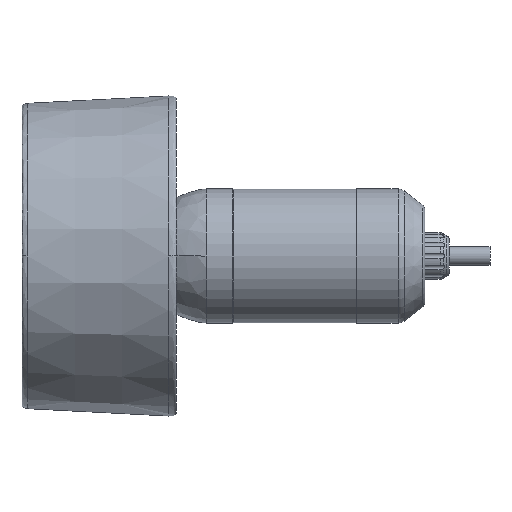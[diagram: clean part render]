
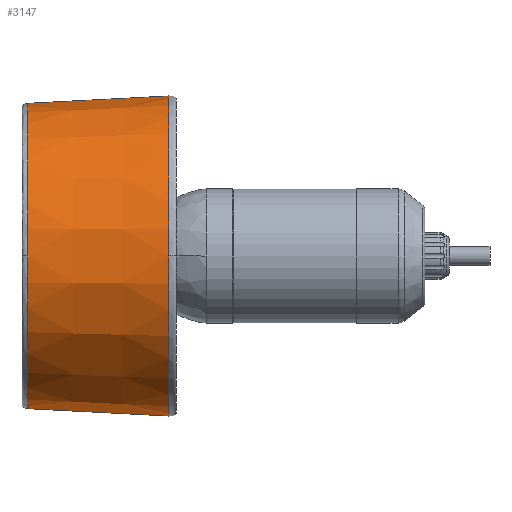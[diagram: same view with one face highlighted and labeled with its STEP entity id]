
A CAD part, front view. The second image highlights one B-rep face of the part: STEP entity #3147.
In plain terms, the highlighted conical face has half-angle 2.994 degrees and reference radius 65.108 mm.
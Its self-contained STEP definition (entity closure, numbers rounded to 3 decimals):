
#101 = AXIS2_PLACEMENT_3D ( 'NONE', #1865, #3343, #4468 ) ;
#211 = ORIENTED_EDGE ( 'NONE', *, *, #3208, .F. ) ;
#332 = CARTESIAN_POINT ( 'NONE',  ( -75.641, -62.108, 0. ) ) ;
#342 = EDGE_CURVE ( 'NONE', #1140, #2924, #1118, .T. ) ;
#347 = DIRECTION ( 'NONE',  ( 1., 0., 0. ) ) ;
#362 = DIRECTION ( 'NONE',  ( 0., 0., -1. ) ) ;
#363 = CARTESIAN_POINT ( 'NONE',  ( -18.282, 0., 0. ) ) ;
#367 = DIRECTION ( 'NONE',  ( 0., 0., -1. ) ) ;
#653 = DIRECTION ( 'NONE',  ( 0.999, 0., -0.052 ) ) ;
#689 = CARTESIAN_POINT ( 'NONE',  ( -75.641, 0., 0. ) ) ;
#710 = LINE ( 'NONE', #4080, #1025 ) ;
#911 = EDGE_CURVE ( 'NONE', #2924, #3658, #4724, .T. ) ;
#1025 = VECTOR ( 'NONE', #2209, 1000. ) ;
#1101 = DIRECTION ( 'NONE',  ( 0., 0., -1. ) ) ;
#1118 = CIRCLE ( 'NONE', #101, 62.108 ) ;
#1140 = VERTEX_POINT ( 'NONE', #332 ) ;
#1208 = ORIENTED_EDGE ( 'NONE', *, *, #4819, .F. ) ;
#1246 = AXIS2_PLACEMENT_3D ( 'NONE', #4486, #1424, #362 ) ;
#1424 = DIRECTION ( 'NONE',  ( 1., 0., 0. ) ) ;
#1449 = CARTESIAN_POINT ( 'NONE',  ( -18.282, 0., 0. ) ) ;
#1541 = VERTEX_POINT ( 'NONE', #2534 ) ;
#1732 = CONICAL_SURFACE ( 'NONE', #2119, 65.108, 0.052 ) ;
#1843 = FACE_OUTER_BOUND ( 'NONE', #2549, .T. ) ;
#1844 = DIRECTION ( 'NONE',  ( 0., 0., -1. ) ) ;
#1865 = CARTESIAN_POINT ( 'NONE',  ( -75.641, 0., 0. ) ) ;
#1953 = CIRCLE ( 'NONE', #4364, 62.108 ) ;
#1997 = EDGE_CURVE ( 'NONE', #1541, #1140, #1953, .T. ) ;
#2050 = VERTEX_POINT ( 'NONE', #4057 ) ;
#2119 = AXIS2_PLACEMENT_3D ( 'NONE', #363, #2951, #1101 ) ;
#2208 = CIRCLE ( 'NONE', #3205, 65.108 ) ;
#2209 = DIRECTION ( 'NONE',  ( 0.999, 0., 0.052 ) ) ;
#2256 = EDGE_CURVE ( 'NONE', #3901, #3658, #3678, .T. ) ;
#2534 = CARTESIAN_POINT ( 'NONE',  ( -75.641, 0., 62.108 ) ) ;
#2549 = EDGE_LOOP ( 'NONE', ( #211, #3951, #4391, #4584, #3569, #1208 ) ) ;
#2847 = CARTESIAN_POINT ( 'NONE',  ( -18.282, 0., -65.108 ) ) ;
#2924 = VERTEX_POINT ( 'NONE', #3531 ) ;
#2951 = DIRECTION ( 'NONE',  ( 1., 0., 0. ) ) ;
#2988 = VECTOR ( 'NONE', #653, 1000. ) ;
#3147 = ADVANCED_FACE ( 'NONE', ( #1843 ), #1732, .T. ) ;
#3205 = AXIS2_PLACEMENT_3D ( 'NONE', #1449, #4421, #1844 ) ;
#3208 = EDGE_CURVE ( 'NONE', #1541, #2050, #710, .T. ) ;
#3343 = DIRECTION ( 'NONE',  ( 1., 0., 0. ) ) ;
#3531 = CARTESIAN_POINT ( 'NONE',  ( -75.641, 0., -62.108 ) ) ;
#3569 = ORIENTED_EDGE ( 'NONE', *, *, #2256, .F. ) ;
#3658 = VERTEX_POINT ( 'NONE', #4507 ) ;
#3678 = CIRCLE ( 'NONE', #1246, 65.108 ) ;
#3901 = VERTEX_POINT ( 'NONE', #4388 ) ;
#3951 = ORIENTED_EDGE ( 'NONE', *, *, #1997, .T. ) ;
#4057 = CARTESIAN_POINT ( 'NONE',  ( -18.282, 0., 65.108 ) ) ;
#4080 = CARTESIAN_POINT ( 'NONE',  ( -18.282, 0., 65.108 ) ) ;
#4364 = AXIS2_PLACEMENT_3D ( 'NONE', #689, #347, #367 ) ;
#4388 = CARTESIAN_POINT ( 'NONE',  ( -18.282, -65.108, 0. ) ) ;
#4391 = ORIENTED_EDGE ( 'NONE', *, *, #342, .T. ) ;
#4421 = DIRECTION ( 'NONE',  ( 1., 0., 0. ) ) ;
#4468 = DIRECTION ( 'NONE',  ( 0., 0., -1. ) ) ;
#4486 = CARTESIAN_POINT ( 'NONE',  ( -18.282, 0., 0. ) ) ;
#4507 = CARTESIAN_POINT ( 'NONE',  ( -18.282, 0., -65.108 ) ) ;
#4584 = ORIENTED_EDGE ( 'NONE', *, *, #911, .T. ) ;
#4724 = LINE ( 'NONE', #2847, #2988 ) ;
#4819 = EDGE_CURVE ( 'NONE', #2050, #3901, #2208, .T. ) ;
